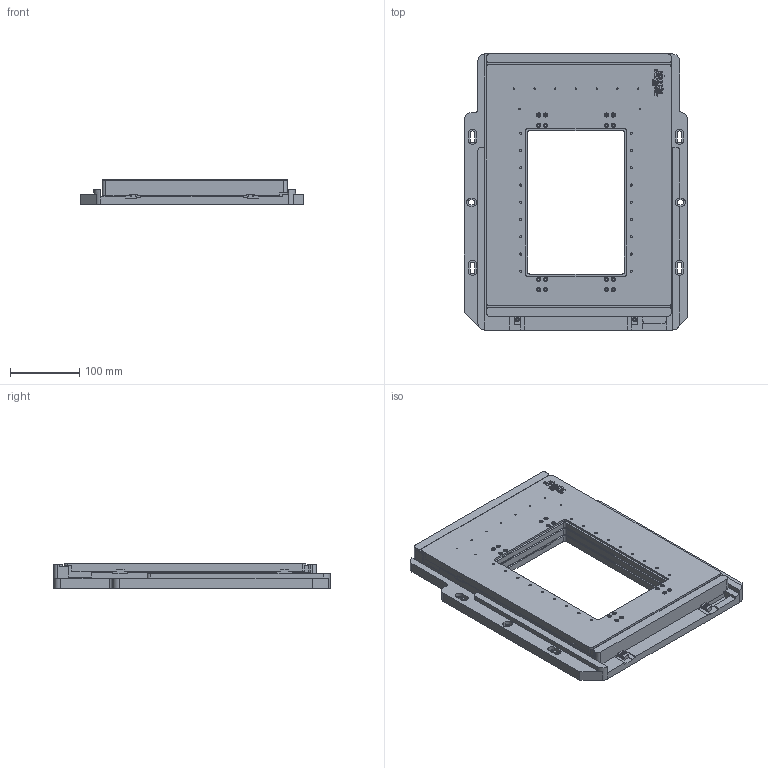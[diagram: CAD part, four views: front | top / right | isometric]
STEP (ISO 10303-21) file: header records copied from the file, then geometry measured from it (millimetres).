
FILE_DESCRIPTION(/* description */ (''),/* implementation_level */ '2;1');
FILE_NAME(/* name */ 'U:\KONSTRUKTORIAI\DOKUMENTACIJA\8\8MTLF130-36XY\STEP\8MTLF130-36XY SB.stp',/* time_stamp */ '2022-11-24T09:40:32+02:00',/* author */ ('dsgn32'),/* organization */ (''),/* preprocessor_version */ 'ST-DEVELOPER v15.2',/* originating_system */ 'Autodesk Inventor 2014',/* authorisation */ '');
FILE_SCHEMA (('CONFIG_CONTROL_DESIGN'));
Length unit declared in the file: millimetre
Products named in the file (1): 8MTLF130-36XY SB
Bounding box: 324 x 400 x 36 mm (x, y, z)
Volume: 2915286.1 mm3; surface area: 309037.2 mm2
Topology: 1 solids, 21 shells, 1467 faces, 3647 edges, 2396 vertices
Faces by surface type: plane 929, cylinder 290, bspline 145, cone 66, torus 37
Full cylindrical faces by diameter (mm): 2.013 x18, 2.459 x41, 2.5 x8, 2.9 x18, 3 x2, 3.242 x20, 3.5 x2, 4.5 x8, 5 x8, 5.5 x18, 6 x18, 7 x1, 8 x1, 9 x2, 11 x3
Entity records: 43804 total; most frequent: CARTESIAN_POINT 9812, ORIENTED_EDGE 6626, DIRECTION 6159, EDGE_CURVE 3313, VERTEX_POINT 2323, LINE 2145, VECTOR 2145, AXIS2_PLACEMENT_3D 2007
